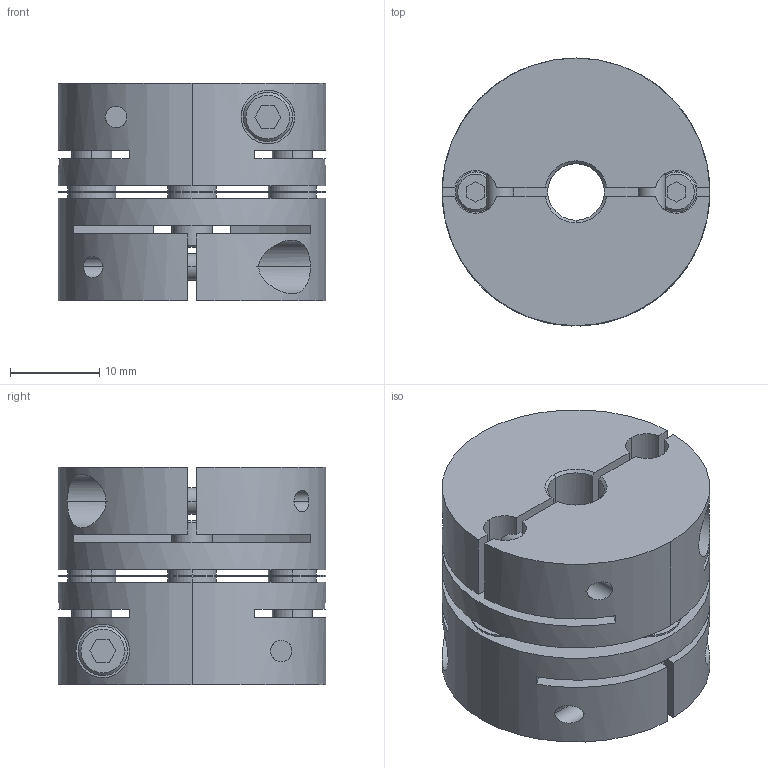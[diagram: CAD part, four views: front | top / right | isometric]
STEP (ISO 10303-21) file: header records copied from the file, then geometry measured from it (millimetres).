
FILE_DESCRIPTION((''),'2;1');
FILE_NAME('LAS-30C-6.35×10.stp','2015-10-14T15:19:50',(''),(''),'AutoCAD STEP 2000i','AutoCAD 2000i',', , ');
FILE_SCHEMA(('CONFIG_CONTROL_DESIGN'));
Length unit declared in the file: millimetre
Products named in the file (6): LAS-30C-6×10; 忣兜1; LA-3002-D10; LA-3002-D06-1; LA-3002-D06; LAS30-ITA
Assembly tree (5 placements, depth 2):
  LAS-30C-6×10
    忣兜1
    LA-3002-D10
    LA-3002-D06-1
    LA-3002-D06
    LAS30-ITA
Bounding box: 30 x 30 x 24.4 mm (x, y, z)
Volume: 13219.2 mm3; surface area: 9198.1 mm2
Topology: 1 solids, 1 shells, 240 faces, 636 edges, 416 vertices
Faces by surface type: plane 112, cylinder 100, cone 28
Entity records: 8333 total; most frequent: CARTESIAN_POINT 2034, DIRECTION 1316, ORIENTED_EDGE 1272, EDGE_CURVE 636, AXIS2_PLACEMENT_3D 482, VERTEX_POINT 416, VECTOR 352, LINE 352
